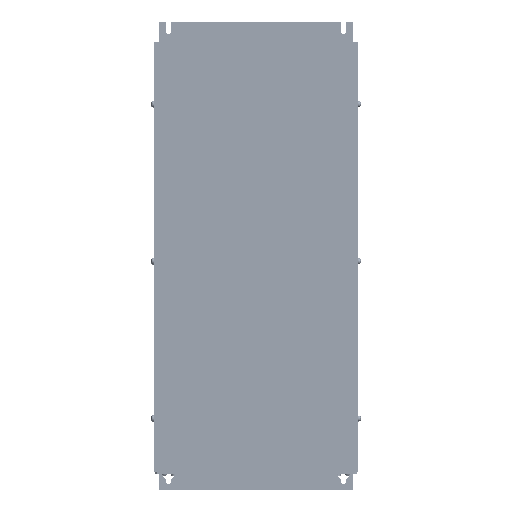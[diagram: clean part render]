
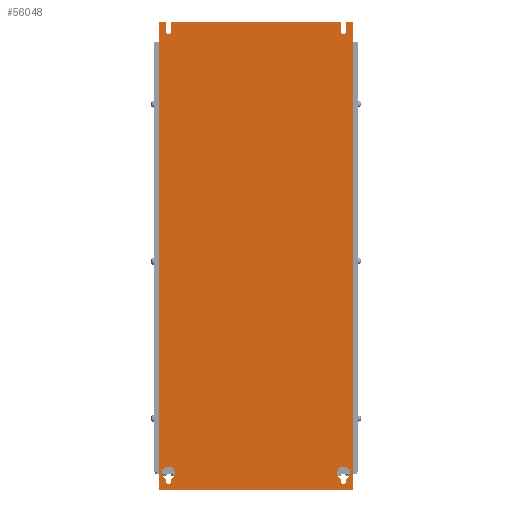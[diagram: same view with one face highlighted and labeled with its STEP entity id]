
A CAD part, front view. The second image highlights one B-rep face of the part: STEP entity #56048.
In plain terms, the highlighted planar face has unit normal (0, -1, 0).
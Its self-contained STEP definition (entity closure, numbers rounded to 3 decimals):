
#12856=DIRECTION('',(0.,0.,1.));
#12857=VECTOR('',#12856,550.);
#12858=CARTESIAN_POINT('',(9.,-102.5,-473.5));
#12859=LINE('',#12858,#12857);
#13006=DIRECTION('',(-1.,0.,0.));
#13007=VECTOR('',#13006,8.4);
#13008=CARTESIAN_POINT('',(9.,-102.5,76.5));
#13009=LINE('',#13008,#13007);
#13010=DIRECTION('',(0.,0.,-1.));
#13011=VECTOR('',#13010,11.);
#13012=CARTESIAN_POINT('',(0.6,-102.5,76.5));
#13013=LINE('',#13012,#13011);
#13018=CARTESIAN_POINT('',(-2.4,-102.5,65.5));
#13019=DIRECTION('',(0.,-1.,0.));
#13020=DIRECTION('',(-1.,0.,0.));
#13021=AXIS2_PLACEMENT_3D('',#13018,#13019,#13020);
#13023=DIRECTION('',(0.,0.,-1.));
#13024=VECTOR('',#13023,550.);
#13025=CARTESIAN_POINT('',(-219.8,-102.5,76.5));
#13026=LINE('',#13025,#13024);
#13027=DIRECTION('',(-1.,0.,0.));
#13028=VECTOR('',#13027,8.4);
#13029=CARTESIAN_POINT('',(-211.4,-102.5,76.5));
#13030=LINE('',#13029,#13028);
#13031=DIRECTION('',(0.,0.,-1.));
#13032=VECTOR('',#13031,11.);
#13033=CARTESIAN_POINT('',(-211.4,-102.5,76.5));
#13034=LINE('',#13033,#13032);
#13035=CARTESIAN_POINT('',(-208.4,-102.5,65.5));
#13036=DIRECTION('',(0.,-1.,0.));
#13037=DIRECTION('',(-1.,0.,0.));
#13038=AXIS2_PLACEMENT_3D('',#13035,#13036,#13037);
#13040=CARTESIAN_POINT('',(-208.4,-102.5,-453.5));
#13041=DIRECTION('',(0.,-1.,0.));
#13042=DIRECTION('',(0.4,0.,-0.917));
#13043=AXIS2_PLACEMENT_3D('',#13040,#13041,#13042);
#13045=CARTESIAN_POINT('',(-208.4,-102.5,-463.5));
#13046=DIRECTION('',(0.,-1.,0.));
#13047=DIRECTION('',(-1.,0.,0.));
#13048=AXIS2_PLACEMENT_3D('',#13045,#13046,#13047);
#13050=CARTESIAN_POINT('',(-2.4,-102.5,-453.5));
#13051=DIRECTION('',(0.,-1.,0.));
#13052=DIRECTION('',(0.4,0.,-0.917));
#13053=AXIS2_PLACEMENT_3D('',#13050,#13051,#13052);
#13055=CARTESIAN_POINT('',(-2.4,-102.5,-463.5));
#13056=DIRECTION('',(0.,-1.,0.));
#13057=DIRECTION('',(-1.,0.,0.));
#13058=AXIS2_PLACEMENT_3D('',#13055,#13056,#13057);
#13064=DIRECTION('',(0.,0.,-1.));
#13065=VECTOR('',#13064,11.);
#13066=CARTESIAN_POINT('',(-5.4,-102.5,76.5));
#13067=LINE('',#13066,#13065);
#13072=DIRECTION('',(-1.,0.,0.));
#13073=VECTOR('',#13072,200.);
#13074=CARTESIAN_POINT('',(-5.4,-102.5,76.5));
#13075=LINE('',#13074,#13073);
#13084=DIRECTION('',(0.,0.,-1.));
#13085=VECTOR('',#13084,11.);
#13086=CARTESIAN_POINT('',(-205.4,-102.5,76.5));
#13087=LINE('',#13086,#13085);
#13112=DIRECTION('',(-1.,0.,0.));
#13113=VECTOR('',#13112,228.8);
#13114=CARTESIAN_POINT('',(9.,-102.5,-473.5));
#13115=LINE('',#13114,#13113);
#17945=DIRECTION('',(0.,0.,-1.));
#17946=VECTOR('',#17945,3.126);
#17947=CARTESIAN_POINT('',(0.6,-102.5,-460.374));
#17948=LINE('',#17947,#17946);
#17961=DIRECTION('',(0.,0.,-1.));
#17962=VECTOR('',#17961,3.126);
#17963=CARTESIAN_POINT('',(-5.4,-102.5,-460.374));
#17964=LINE('',#17963,#17962);
#17977=DIRECTION('',(0.,0.,-1.));
#17978=VECTOR('',#17977,3.126);
#17979=CARTESIAN_POINT('',(-205.4,-102.5,-460.374));
#17980=LINE('',#17979,#17978);
#17993=DIRECTION('',(0.,0.,-1.));
#17994=VECTOR('',#17993,3.126);
#17995=CARTESIAN_POINT('',(-211.4,-102.5,-460.374));
#17996=LINE('',#17995,#17994);
#28458=CARTESIAN_POINT('',(-219.8,-102.5,-473.5));
#28459=VERTEX_POINT('',#28458);
#28460=CARTESIAN_POINT('',(-219.8,-102.5,76.5));
#28461=VERTEX_POINT('',#28460);
#30588=CARTESIAN_POINT('',(-211.4,-102.5,76.5));
#30589=VERTEX_POINT('',#30588);
#30590=CARTESIAN_POINT('',(-211.4,-102.5,65.5));
#30591=VERTEX_POINT('',#30590);
#30592=CARTESIAN_POINT('',(-5.4,-102.5,76.5));
#30593=CARTESIAN_POINT('',(-5.4,-102.5,65.5));
#30594=VERTEX_POINT('',#30592);
#30595=VERTEX_POINT('',#30593);
#30596=CARTESIAN_POINT('',(-205.4,-102.5,76.5));
#30597=VERTEX_POINT('',#30596);
#30598=CARTESIAN_POINT('',(-205.4,-102.5,65.5));
#30599=VERTEX_POINT('',#30598);
#30600=CARTESIAN_POINT('',(9.,-102.5,-473.5));
#30601=VERTEX_POINT('',#30600);
#30602=CARTESIAN_POINT('',(9.,-102.5,76.5));
#30603=VERTEX_POINT('',#30602);
#30604=CARTESIAN_POINT('',(0.6,-102.5,76.5));
#30605=VERTEX_POINT('',#30604);
#30606=CARTESIAN_POINT('',(0.6,-102.5,65.5));
#30607=VERTEX_POINT('',#30606);
#30608=CARTESIAN_POINT('',(-205.4,-102.5,-460.374));
#30609=CARTESIAN_POINT('',(-211.4,-102.5,-460.374));
#30610=VERTEX_POINT('',#30608);
#30611=VERTEX_POINT('',#30609);
#30612=CARTESIAN_POINT('',(-205.4,-102.5,-463.5));
#30613=VERTEX_POINT('',#30612);
#30614=CARTESIAN_POINT('',(-211.4,-102.5,-463.5));
#30615=VERTEX_POINT('',#30614);
#30616=CARTESIAN_POINT('',(0.6,-102.5,-460.374));
#30617=CARTESIAN_POINT('',(-5.4,-102.5,-460.374));
#30618=VERTEX_POINT('',#30616);
#30619=VERTEX_POINT('',#30617);
#30620=CARTESIAN_POINT('',(0.6,-102.5,-463.5));
#30621=VERTEX_POINT('',#30620);
#30622=CARTESIAN_POINT('',(-5.4,-102.5,-463.5));
#30623=VERTEX_POINT('',#30622);
#56003=CARTESIAN_POINT('',(-105.4,-102.5,-198.5));
#56004=DIRECTION('',(0.,1.,0.));
#56005=DIRECTION('',(0.,0.,-1.));
#56006=AXIS2_PLACEMENT_3D('',#56003,#56004,#56005);
#56007=PLANE('',#56006);
#56009=ORIENTED_EDGE('',*,*,#56008,.T.);
#56011=ORIENTED_EDGE('',*,*,#56010,.T.);
#56012=ORIENTED_EDGE('',*,*,#55995,.F.);
#56013=ORIENTED_EDGE('',*,*,#55984,.F.);
#56014=ORIENTED_EDGE('',*,*,#55805,.F.);
#56016=ORIENTED_EDGE('',*,*,#56015,.T.);
#56017=ORIENTED_EDGE('',*,*,#55862,.F.);
#56018=ORIENTED_EDGE('',*,*,#55920,.F.);
#56019=ORIENTED_EDGE('',*,*,#55940,.T.);
#56021=ORIENTED_EDGE('',*,*,#56020,.T.);
#56023=ORIENTED_EDGE('',*,*,#56022,.F.);
#56025=ORIENTED_EDGE('',*,*,#56024,.F.);
#56026=EDGE_LOOP('',(#56009,#56011,#56012,#56013,#56014,#56016,#56017,#56018,
#56019,#56021,#56023,#56025));
#56027=FACE_OUTER_BOUND('',#56026,.F.);
#56029=ORIENTED_EDGE('',*,*,#56028,.T.);
#56031=ORIENTED_EDGE('',*,*,#56030,.T.);
#56033=ORIENTED_EDGE('',*,*,#56032,.T.);
#56035=ORIENTED_EDGE('',*,*,#56034,.F.);
#56036=EDGE_LOOP('',(#56029,#56031,#56033,#56035));
#56037=FACE_BOUND('',#56036,.F.);
#56039=ORIENTED_EDGE('',*,*,#56038,.T.);
#56041=ORIENTED_EDGE('',*,*,#56040,.T.);
#56043=ORIENTED_EDGE('',*,*,#56042,.T.);
#56045=ORIENTED_EDGE('',*,*,#56044,.F.);
#56046=EDGE_LOOP('',(#56039,#56041,#56043,#56045));
#56047=FACE_BOUND('',#56046,.F.);
#56048=ADVANCED_FACE('',(#56027,#56037,#56047),#56007,.F.);
#13022=CIRCLE('',#13021,3.);
#13039=CIRCLE('',#13038,3.);
#13044=CIRCLE('',#13043,7.5);
#13049=CIRCLE('',#13048,3.);
#13054=CIRCLE('',#13053,7.5);
#13059=CIRCLE('',#13058,3.);
#55805=EDGE_CURVE('',#30601,#30603,#12859,.T.);
#55862=EDGE_CURVE('',#28461,#28459,#13026,.T.);
#55920=EDGE_CURVE('',#30589,#28461,#13030,.T.);
#55940=EDGE_CURVE('',#30589,#30591,#13034,.T.);
#55984=EDGE_CURVE('',#30603,#30605,#13009,.T.);
#55995=EDGE_CURVE('',#30605,#30607,#13013,.T.);
#56008=EDGE_CURVE('',#30594,#30595,#13067,.T.);
#56010=EDGE_CURVE('',#30595,#30607,#13022,.T.);
#56015=EDGE_CURVE('',#30601,#28459,#13115,.T.);
#56020=EDGE_CURVE('',#30591,#30599,#13039,.T.);
#56022=EDGE_CURVE('',#30597,#30599,#13087,.T.);
#56024=EDGE_CURVE('',#30594,#30597,#13075,.T.);
#56028=EDGE_CURVE('',#30610,#30611,#13044,.T.);
#56030=EDGE_CURVE('',#30611,#30615,#17996,.T.);
#56032=EDGE_CURVE('',#30615,#30613,#13049,.T.);
#56034=EDGE_CURVE('',#30610,#30613,#17980,.T.);
#56038=EDGE_CURVE('',#30618,#30619,#13054,.T.);
#56040=EDGE_CURVE('',#30619,#30623,#17964,.T.);
#56042=EDGE_CURVE('',#30623,#30621,#13059,.T.);
#56044=EDGE_CURVE('',#30618,#30621,#17948,.T.);
